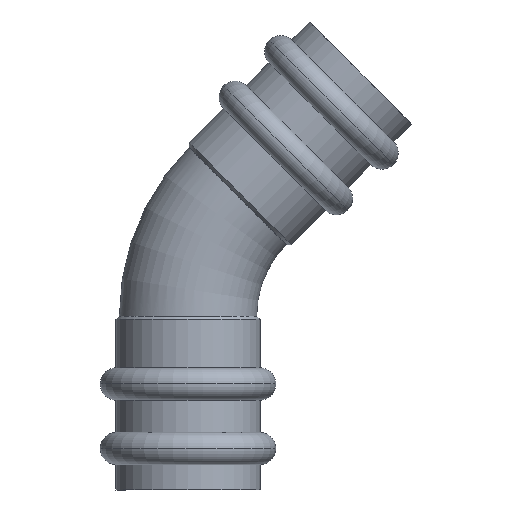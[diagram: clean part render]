
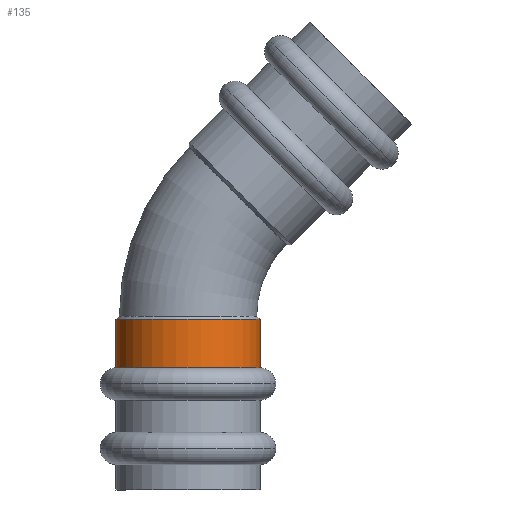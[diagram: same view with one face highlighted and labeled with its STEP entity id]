
A CAD part, front view. The second image highlights one B-rep face of the part: STEP entity #135.
In plain terms, the highlighted cylindrical face has radius 15.65 mm (diameter 31.3 mm), a partial arc.
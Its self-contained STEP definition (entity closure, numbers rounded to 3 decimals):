
#135=ADVANCED_FACE('',(#319),#320,.T.);
#319=FACE_OUTER_BOUND('',#567,.T.);
#320=CYLINDRICAL_SURFACE('',#568,15.65);
#567=EDGE_LOOP('',(#899,#900,#901,#902));
#568=AXIS2_PLACEMENT_3D('',#903,#904,#905);
#899=ORIENTED_EDGE('',*,*,#1424,.F.);
#900=ORIENTED_EDGE('',*,*,#1425,.T.);
#901=ORIENTED_EDGE('',*,*,#1426,.F.);
#902=ORIENTED_EDGE('',*,*,#1427,.F.);
#903=CARTESIAN_POINT('',(0.,0.0,31.75));
#904=DIRECTION('',(0.,0.0,-1.0));
#905=DIRECTION('',(1.0,0.0,0.));
#1424=EDGE_CURVE('',#1691,#1692,#1693,.T.);
#1425=EDGE_CURVE('',#1691,#1694,#1695,.T.);
#1426=EDGE_CURVE('',#1696,#1694,#1697,.T.);
#1427=EDGE_CURVE('',#1692,#1696,#1698,.T.);
#1691=VERTEX_POINT('',#2166);
#1692=VERTEX_POINT('',#2167);
#1693=LINE('',#2168,#2169);
#1694=VERTEX_POINT('',#2170);
#1695=CIRCLE('',#2171,15.65);
#1696=VERTEX_POINT('',#2172);
#1697=LINE('',#2173,#2174);
#1698=CIRCLE('',#2175,15.65);
#2166=CARTESIAN_POINT('',(15.65,0.,37.));
#2167=CARTESIAN_POINT('',(15.65,0.,26.5));
#2168=CARTESIAN_POINT('',(15.65,0.,31.75));
#2169=VECTOR('',#2700,1.0);
#2170=CARTESIAN_POINT('',(-15.65,0.,37.));
#2171=AXIS2_PLACEMENT_3D('',#2701,#2702,#2703);
#2172=CARTESIAN_POINT('',(-15.65,0.,26.5));
#2173=CARTESIAN_POINT('',(-15.65,0.,31.75));
#2174=VECTOR('',#2704,1.0);
#2175=AXIS2_PLACEMENT_3D('',#2705,#2706,#2707);
#2700=DIRECTION('',(0.,0.0,-1.0));
#2701=CARTESIAN_POINT('',(0.,0.0,37.));
#2702=DIRECTION('',(0.,0.0,-1.0));
#2703=DIRECTION('',(1.0,0.0,0.));
#2704=DIRECTION('',(0.,-0.0,1.0));
#2705=CARTESIAN_POINT('',(0.,0.0,26.5));
#2706=DIRECTION('',(0.,0.0,-1.0));
#2707=DIRECTION('',(1.0,0.0,0.));
